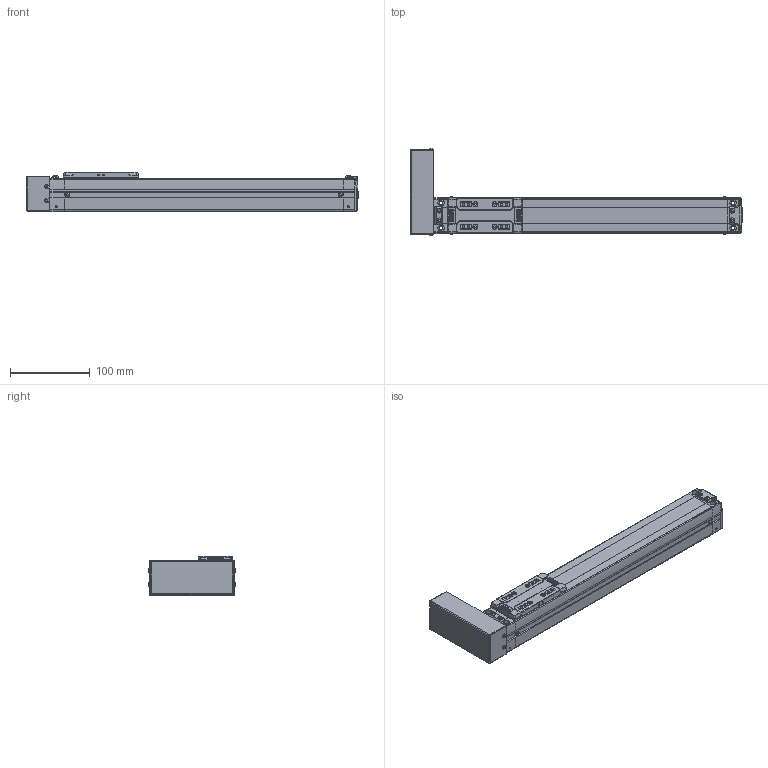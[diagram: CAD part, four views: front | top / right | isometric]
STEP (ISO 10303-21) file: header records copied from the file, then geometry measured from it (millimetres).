
FILE_DESCRIPTION(('STEP AP214'),'1');
FILE_NAME('Z:/Web/3D/SAN45/2013.ver/STP/SAN45-250PL.stp','2013-05-15T00:28:04',(' '),(' '),'Spatial InterOp 3D',' ',' ');
FILE_SCHEMA(('automotive_design'));
Length unit declared in the file: millimetre
Products named in the file (28): BODY-SAN45; REAR-SAN45; RRCV-SAN45; BHCS M3 x 6L; BHCS M3 X 6L; FRONT-SAN45; SHAFT; RN8 x 0.75; SSFX-SAN45; SLIDE-SAN45; SLCV-IM45; FHCS M3 x 6L; BTCV-SAN45
Bounding box: 416.15 x 110.13 x 50 mm (x, y, z)
Volume: 836736 mm3; surface area: 138898.2 mm2
Topology: 28 solids, 28 shells, 1700 faces, 4417 edges, 2853 vertices
Faces by surface type: plane 887, cylinder 593, cone 122, bspline 40, sphere 40, torus 12, extrusion 6
Entity records: 70077 total; most frequent: CARTESIAN_POINT 13354, DIRECTION 9184, ORIENTED_EDGE 8742, EDGE_CURVE 4371, AXIS2_PLACEMENT_3D 3232, VERTEX_POINT 2853, VECTOR 2720, LINE 2714
